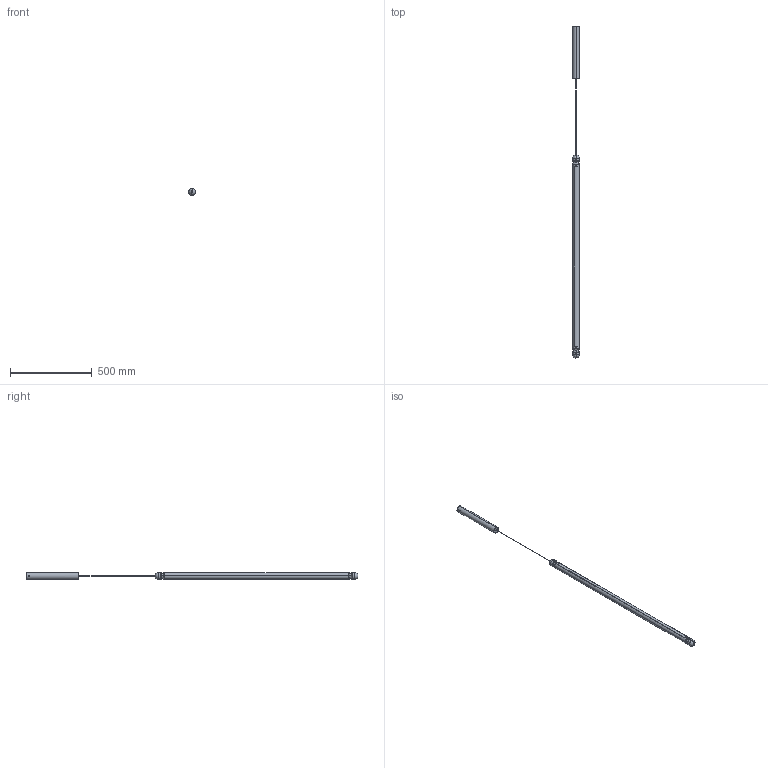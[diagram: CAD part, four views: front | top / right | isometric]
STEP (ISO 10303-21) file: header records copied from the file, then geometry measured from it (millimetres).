
FILE_DESCRIPTION (( 'STEP AP214' ), '1' );
FILE_NAME ('LINEA V.STEP', '2022-09-01T07:10:06', ( '' ), ( '' ), 'SwSTEP 2.0', 'SolidWorks 2016', '' );
FILE_SCHEMA (( 'AUTOMOTIVE_DESIGN' ));
Length unit declared in the file: millimetre
Products named in the file (9): CABLE^ENSAMBLAJE COMPLETO LAMPARA VERTICAL; CUERPO_TUBO_TECHO_VERTICAL; CUERPO STANDARD_VERTICAL; Freno_Lampara_vertical; DIFUSOR_LUZ_CARRIL_PIE; SOPORTE_TUBO_TECHO_VERTICAL_2; LINEA V; TERMINAL VERTICAL; ENLACE LATÓN
Assembly tree (11 placements, depth 2):
  LINEA V
    SOPORTE_TUBO_TECHO_VERTICAL_2
    CUERPO_TUBO_TECHO_VERTICAL
    CABLE^ENSAMBLAJE COMPLETO LAMPARA VERTICAL
    Freno_Lampara_vertical  x2
    CUERPO STANDARD_VERTICAL
    ENLACE LATÓN  x2
    TERMINAL VERTICAL  x2
    DIFUSOR_LUZ_CARRIL_PIE
Bounding box: 40 x 2033.87 x 40 mm (x, y, z)
Volume: 1140964.3 mm3; surface area: 358428.9 mm2
Topology: 11 solids, 11 shells, 150 faces, 388 edges, 248 vertices
Faces by surface type: cylinder 87, plane 51, torus 8, sphere 4
Entity records: 4738 total; most frequent: CARTESIAN_POINT 1546, DIRECTION 580, ORIENTED_EDGE 558, EDGE_CURVE 279, AXIS2_PLACEMENT_3D 224, VERTEX_POINT 180, EDGE_LOOP 147, VECTOR 132
